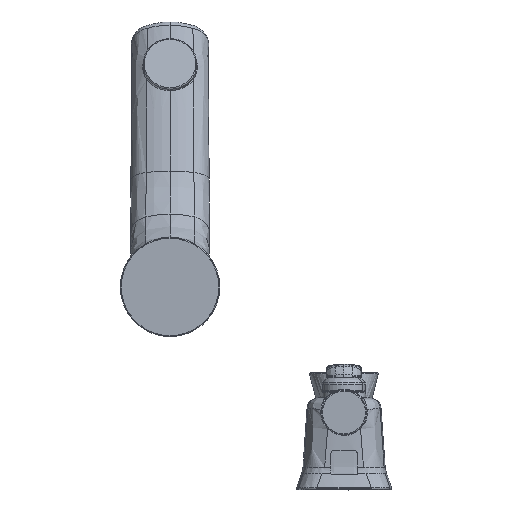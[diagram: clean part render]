
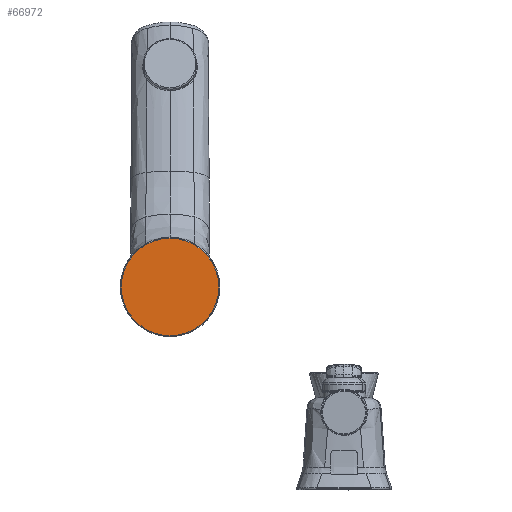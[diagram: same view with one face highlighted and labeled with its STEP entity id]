
A CAD part, front view. The second image highlights one B-rep face of the part: STEP entity #66972.
In plain terms, the highlighted planar face has unit normal (0, -1, 0).
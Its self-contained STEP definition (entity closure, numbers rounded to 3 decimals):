
#2374 = AXIS2_PLACEMENT_3D ( 'NONE', #51631, #63691, #13687 ) ;
#5324 = CARTESIAN_POINT ( 'NONE',  ( 0., -0.5, 25.25 ) ) ;
#8006 = CARTESIAN_POINT ( 'NONE',  ( 0., -0.5, 0. ) ) ;
#11676 = DIRECTION ( 'NONE',  ( 0., -1., 0. ) ) ;
#11727 = AXIS2_PLACEMENT_3D ( 'NONE', #62142, #11676, #23037 ) ;
#13687 = DIRECTION ( 'NONE',  ( 0., 0., 1. ) ) ;
#13915 = DIRECTION ( 'NONE',  ( 0., 0., 1. ) ) ;
#18078 = ORIENTED_EDGE ( 'NONE', *, *, #19451, .F. ) ;
#19451 = EDGE_CURVE ( 'NONE', #32816, #50559, #21808, .T. ) ;
#21808 = CIRCLE ( 'NONE', #32021, 25.25 ) ;
#23037 = DIRECTION ( 'NONE',  ( 0., 0., -1. ) ) ;
#25771 = DIRECTION ( 'NONE',  ( 0., 1., 0. ) ) ;
#28018 = EDGE_CURVE ( 'NONE', #50559, #32816, #61241, .T. ) ;
#32021 = AXIS2_PLACEMENT_3D ( 'NONE', #8006, #25771, #13915 ) ;
#32816 = VERTEX_POINT ( 'NONE', #5324 ) ;
#39321 = ORIENTED_EDGE ( 'NONE', *, *, #28018, .F. ) ;
#45185 = EDGE_LOOP ( 'NONE', ( #18078, #39321 ) ) ;
#50559 = VERTEX_POINT ( 'NONE', #55127 ) ;
#50808 = PLANE ( 'NONE',  #11727 ) ;
#51631 = CARTESIAN_POINT ( 'NONE',  ( 0., -0.5, 0. ) ) ;
#54403 = FACE_OUTER_BOUND ( 'NONE', #45185, .T. ) ;
#55127 = CARTESIAN_POINT ( 'NONE',  ( 0., -0.5, -25.25 ) ) ;
#61241 = CIRCLE ( 'NONE', #2374, 25.25 ) ;
#62142 = CARTESIAN_POINT ( 'NONE',  ( 0., -0.5, -20.642 ) ) ;
#63691 = DIRECTION ( 'NONE',  ( 0., 1., 0. ) ) ;
#66972 = ADVANCED_FACE ( 'NONE', ( #54403 ), #50808, .T. ) ;
